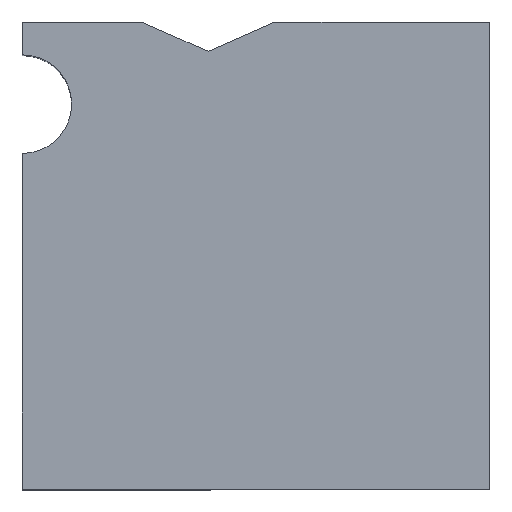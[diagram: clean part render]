
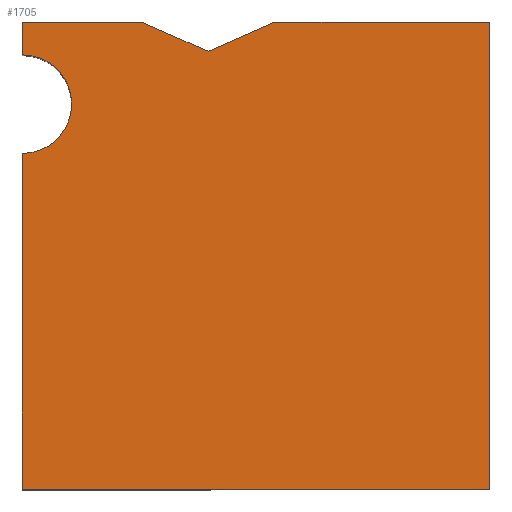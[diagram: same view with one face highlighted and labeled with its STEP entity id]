
A CAD part, top view. The second image highlights one B-rep face of the part: STEP entity #1705.
In plain terms, the highlighted planar face has unit normal (0, 0, 1).
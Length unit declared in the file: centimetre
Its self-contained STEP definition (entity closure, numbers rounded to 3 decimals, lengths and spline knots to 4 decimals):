
#21 = LINE ( 'NONE', #1500, #1741 ) ;
#23 = ORIENTED_EDGE ( 'NONE', *, *, #1535, .T. ) ;
#64 = VERTEX_POINT ( 'NONE', #1605 ) ;
#95 = LINE ( 'NONE', #525, #298 ) ;
#106 = FACE_OUTER_BOUND ( 'NONE', #931, .T. ) ;
#180 = VECTOR ( 'NONE', #1602, 100. ) ;
#184 = AXIS2_PLACEMENT_3D ( 'NONE', #1704, #234, #1327 ) ;
#205 = ORIENTED_EDGE ( 'NONE', *, *, #532, .T. ) ;
#209 = VECTOR ( 'NONE', #1478, 100. ) ;
#234 = DIRECTION ( 'NONE',  ( 0., 0., -1. ) ) ;
#246 = CARTESIAN_POINT ( 'NONE',  ( 0., 1000., 1000. ) ) ;
#298 = VECTOR ( 'NONE', #929, 100. ) ;
#354 = CIRCLE ( 'NONE', #184, 105.3964 ) ;
#387 = VECTOR ( 'NONE', #456, 100. ) ;
#424 = DIRECTION ( 'NONE',  ( 0., -1., 0. ) ) ;
#450 = DIRECTION ( 'NONE',  ( -0.915, -0.404, 0. ) ) ;
#456 = DIRECTION ( 'NONE',  ( -1., 0., 0. ) ) ;
#483 = ORIENTED_EDGE ( 'NONE', *, *, #1714, .T. ) ;
#512 = VERTEX_POINT ( 'NONE', #1110 ) ;
#515 = CARTESIAN_POINT ( 'NONE',  ( 0., 0., 1000. ) ) ;
#525 = CARTESIAN_POINT ( 'NONE',  ( 1000., 1000., 1000. ) ) ;
#529 = LINE ( 'NONE', #1727, #209 ) ;
#532 = EDGE_CURVE ( 'NONE', #1623, #745, #1352, .T. ) ;
#560 = DIRECTION ( 'NONE',  ( -0.915, 0.404, 0. ) ) ;
#567 = CARTESIAN_POINT ( 'NONE',  ( 255.0766, 1000., 1000. ) ) ;
#569 = LINE ( 'NONE', #811, #805 ) ;
#614 = VERTEX_POINT ( 'NONE', #816 ) ;
#618 = CARTESIAN_POINT ( 'NONE',  ( 0., 0., 1000. ) ) ;
#649 = VERTEX_POINT ( 'NONE', #1560 ) ;
#721 = EDGE_CURVE ( 'NONE', #614, #64, #1541, .T. ) ;
#724 = ORIENTED_EDGE ( 'NONE', *, *, #721, .T. ) ;
#725 = CARTESIAN_POINT ( 'NONE',  ( 0., 929.58, 1000. ) ) ;
#741 = CARTESIAN_POINT ( 'NONE',  ( 255.0766, 1000., 1000. ) ) ;
#745 = VERTEX_POINT ( 'NONE', #741 ) ;
#786 = ORIENTED_EDGE ( 'NONE', *, *, #1682, .T. ) ;
#799 = ORIENTED_EDGE ( 'NONE', *, *, #862, .T. ) ;
#805 = VECTOR ( 'NONE', #424, 100. ) ;
#811 = CARTESIAN_POINT ( 'NONE',  ( 0., 1000., 1000. ) ) ;
#815 = EDGE_CURVE ( 'NONE', #1679, #1506, #1585, .T. ) ;
#816 = CARTESIAN_POINT ( 'NONE',  ( 0., 0., 1000. ) ) ;
#852 = LINE ( 'NONE', #1533, #387 ) ;
#862 = EDGE_CURVE ( 'NONE', #745, #1679, #529, .T. ) ;
#863 = VECTOR ( 'NONE', #560, 100. ) ;
#885 = ORIENTED_EDGE ( 'NONE', *, *, #1492, .T. ) ;
#887 = VECTOR ( 'NONE', #1576, 100. ) ;
#929 = DIRECTION ( 'NONE',  ( 0., 1., 0. ) ) ;
#931 = EDGE_LOOP ( 'NONE', ( #786, #1286, #724, #483, #23, #885, #205, #799, #1510 ) ) ;
#1047 = CARTESIAN_POINT ( 'NONE',  ( 397.6959, 937.0396, 1000. ) ) ;
#1110 = CARTESIAN_POINT ( 'NONE',  ( 0., 718.7871, 1000. ) ) ;
#1129 = VERTEX_POINT ( 'NONE', #1154 ) ;
#1154 = CARTESIAN_POINT ( 'NONE',  ( 1000., 1000., 1000. ) ) ;
#1174 = AXIS2_PLACEMENT_3D ( 'NONE', #515, #1572, #1581 ) ;
#1286 = ORIENTED_EDGE ( 'NONE', *, *, #1389, .T. ) ;
#1327 = DIRECTION ( 'NONE',  ( -1., 0., 0. ) ) ;
#1330 = CARTESIAN_POINT ( 'NONE',  ( 0., 1000., 1000. ) ) ;
#1352 = LINE ( 'NONE', #567, #863 ) ;
#1389 = EDGE_CURVE ( 'NONE', #512, #614, #569, .T. ) ;
#1478 = DIRECTION ( 'NONE',  ( -1., 0., 0. ) ) ;
#1492 = EDGE_CURVE ( 'NONE', #649, #1623, #21, .T. ) ;
#1500 = CARTESIAN_POINT ( 'NONE',  ( 397.6959, 937.0396, 1000. ) ) ;
#1506 = VERTEX_POINT ( 'NONE', #725 ) ;
#1510 = ORIENTED_EDGE ( 'NONE', *, *, #815, .T. ) ;
#1533 = CARTESIAN_POINT ( 'NONE',  ( 0., 1000., 1000. ) ) ;
#1535 = EDGE_CURVE ( 'NONE', #1129, #649, #852, .T. ) ;
#1541 = LINE ( 'NONE', #618, #887 ) ;
#1560 = CARTESIAN_POINT ( 'NONE',  ( 540.3152, 1000., 1000. ) ) ;
#1572 = DIRECTION ( 'NONE',  ( 0., 0., 1. ) ) ;
#1576 = DIRECTION ( 'NONE',  ( 1., 0., 0. ) ) ;
#1581 = DIRECTION ( 'NONE',  ( 1., 0., 0. ) ) ;
#1585 = LINE ( 'NONE', #1330, #180 ) ;
#1602 = DIRECTION ( 'NONE',  ( 0., -1., 0. ) ) ;
#1605 = CARTESIAN_POINT ( 'NONE',  ( 1000., 0., 1000. ) ) ;
#1623 = VERTEX_POINT ( 'NONE', #1047 ) ;
#1679 = VERTEX_POINT ( 'NONE', #246 ) ;
#1682 = EDGE_CURVE ( 'NONE', #1506, #512, #354, .T. ) ;
#1704 = CARTESIAN_POINT ( 'NONE',  ( 0., 824.1835, 1000. ) ) ;
#1705 = ADVANCED_FACE ( 'NONE', ( #106 ), #1740, .T. ) ;
#1714 = EDGE_CURVE ( 'NONE', #64, #1129, #95, .T. ) ;
#1727 = CARTESIAN_POINT ( 'NONE',  ( 0., 1000., 1000. ) ) ;
#1740 = PLANE ( 'NONE',  #1174 ) ;
#1741 = VECTOR ( 'NONE', #450, 100. ) ;
